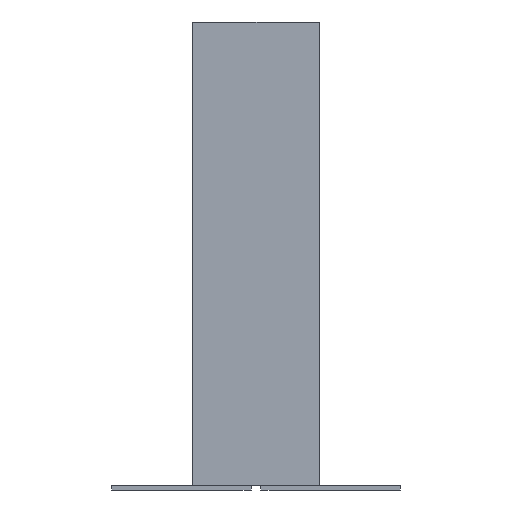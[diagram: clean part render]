
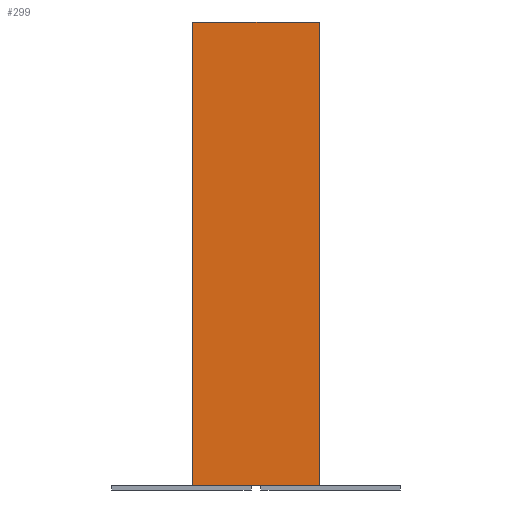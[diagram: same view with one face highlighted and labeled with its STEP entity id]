
A CAD part, left-side view. The second image highlights one B-rep face of the part: STEP entity #299.
In plain terms, the highlighted planar face has unit normal (-1, 0, 0).
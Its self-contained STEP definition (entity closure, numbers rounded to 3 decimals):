
#36 = EDGE_CURVE('',#37,#39,#41,.T.);
#37 = VERTEX_POINT('',#38);
#38 = CARTESIAN_POINT('',(-17.78,1.27,0.));
#39 = VERTEX_POINT('',#40);
#40 = CARTESIAN_POINT('',(-17.78,1.27,9.3));
#41 = SURFACE_CURVE('',#42,(#46,#58),.PCURVE_S1.);
#42 = LINE('',#43,#44);
#43 = CARTESIAN_POINT('',(-17.78,1.27,0.));
#44 = VECTOR('',#45,1.);
#45 = DIRECTION('',(0.,0.,1.));
#46 = PCURVE('',#47,#52);
#47 = PLANE('',#48);
#48 = AXIS2_PLACEMENT_3D('',#49,#50,#51);
#49 = CARTESIAN_POINT('',(-17.78,1.27,0.));
#50 = DIRECTION('',(0.,1.,0.));
#51 = DIRECTION('',(1.,0.,0.));
#52 = DEFINITIONAL_REPRESENTATION('',(#53),#57);
#53 = LINE('',#54,#55);
#54 = CARTESIAN_POINT('',(0.,0.));
#55 = VECTOR('',#56,1.);
#56 = DIRECTION('',(0.,-1.));
#57 = ( GEOMETRIC_REPRESENTATION_CONTEXT(2) 
PARAMETRIC_REPRESENTATION_CONTEXT() REPRESENTATION_CONTEXT('2D SPACE',''
  ) );
#58 = PCURVE('',#59,#64);
#59 = PLANE('',#60);
#60 = AXIS2_PLACEMENT_3D('',#61,#62,#63);
#61 = CARTESIAN_POINT('',(-17.78,-1.27,0.));
#62 = DIRECTION('',(-1.,0.,0.));
#63 = DIRECTION('',(0.,1.,0.));
#64 = DEFINITIONAL_REPRESENTATION('',(#65),#69);
#65 = LINE('',#66,#67);
#66 = CARTESIAN_POINT('',(2.54,0.));
#67 = VECTOR('',#68,1.);
#68 = DIRECTION('',(0.,-1.));
#69 = ( GEOMETRIC_REPRESENTATION_CONTEXT(2) 
PARAMETRIC_REPRESENTATION_CONTEXT() REPRESENTATION_CONTEXT('2D SPACE',''
  ) );
#87 = PLANE('',#88);
#88 = AXIS2_PLACEMENT_3D('',#89,#90,#91);
#89 = CARTESIAN_POINT('',(0.,0.,9.3));
#90 = DIRECTION('',(-0.,-0.,-1.));
#91 = DIRECTION('',(-1.,0.,0.));
#141 = PLANE('',#142);
#142 = AXIS2_PLACEMENT_3D('',#143,#144,#145);
#143 = CARTESIAN_POINT('',(0.,0.,0.));
#144 = DIRECTION('',(-0.,-0.,-1.));
#145 = DIRECTION('',(-1.,0.,0.));
#196 = PLANE('',#197);
#197 = AXIS2_PLACEMENT_3D('',#198,#199,#200);
#198 = CARTESIAN_POINT('',(17.78,-1.27,0.));
#199 = DIRECTION('',(0.,-1.,0.));
#200 = DIRECTION('',(-1.,0.,0.));
#234 = VERTEX_POINT('',#235);
#235 = CARTESIAN_POINT('',(-17.78,-1.27,9.3));
#256 = EDGE_CURVE('',#257,#234,#259,.T.);
#257 = VERTEX_POINT('',#258);
#258 = CARTESIAN_POINT('',(-17.78,-1.27,0.));
#259 = SURFACE_CURVE('',#260,(#264,#271),.PCURVE_S1.);
#260 = LINE('',#261,#262);
#261 = CARTESIAN_POINT('',(-17.78,-1.27,0.));
#262 = VECTOR('',#263,1.);
#263 = DIRECTION('',(0.,0.,1.));
#264 = PCURVE('',#196,#265);
#265 = DEFINITIONAL_REPRESENTATION('',(#266),#270);
#266 = LINE('',#267,#268);
#267 = CARTESIAN_POINT('',(35.56,0.));
#268 = VECTOR('',#269,1.);
#269 = DIRECTION('',(0.,-1.));
#270 = ( GEOMETRIC_REPRESENTATION_CONTEXT(2) 
PARAMETRIC_REPRESENTATION_CONTEXT() REPRESENTATION_CONTEXT('2D SPACE',''
  ) );
#271 = PCURVE('',#59,#272);
#272 = DEFINITIONAL_REPRESENTATION('',(#273),#277);
#273 = LINE('',#274,#275);
#274 = CARTESIAN_POINT('',(0.,0.));
#275 = VECTOR('',#276,1.);
#276 = DIRECTION('',(0.,-1.));
#277 = ( GEOMETRIC_REPRESENTATION_CONTEXT(2) 
PARAMETRIC_REPRESENTATION_CONTEXT() REPRESENTATION_CONTEXT('2D SPACE',''
  ) );
#299 = ADVANCED_FACE('',(#300),#59,.T.);
#300 = FACE_BOUND('',#301,.T.);
#301 = EDGE_LOOP('',(#302,#303,#324,#325));
#302 = ORIENTED_EDGE('',*,*,#256,.T.);
#303 = ORIENTED_EDGE('',*,*,#304,.T.);
#304 = EDGE_CURVE('',#234,#39,#305,.T.);
#305 = SURFACE_CURVE('',#306,(#310,#317),.PCURVE_S1.);
#306 = LINE('',#307,#308);
#307 = CARTESIAN_POINT('',(-17.78,-1.27,9.3));
#308 = VECTOR('',#309,1.);
#309 = DIRECTION('',(0.,1.,0.));
#310 = PCURVE('',#59,#311);
#311 = DEFINITIONAL_REPRESENTATION('',(#312),#316);
#312 = LINE('',#313,#314);
#313 = CARTESIAN_POINT('',(0.,-9.3));
#314 = VECTOR('',#315,1.);
#315 = DIRECTION('',(1.,0.));
#316 = ( GEOMETRIC_REPRESENTATION_CONTEXT(2) 
PARAMETRIC_REPRESENTATION_CONTEXT() REPRESENTATION_CONTEXT('2D SPACE',''
  ) );
#317 = PCURVE('',#87,#318);
#318 = DEFINITIONAL_REPRESENTATION('',(#319),#323);
#319 = LINE('',#320,#321);
#320 = CARTESIAN_POINT('',(17.78,-1.27));
#321 = VECTOR('',#322,1.);
#322 = DIRECTION('',(0.,1.));
#323 = ( GEOMETRIC_REPRESENTATION_CONTEXT(2) 
PARAMETRIC_REPRESENTATION_CONTEXT() REPRESENTATION_CONTEXT('2D SPACE',''
  ) );
#324 = ORIENTED_EDGE('',*,*,#36,.F.);
#325 = ORIENTED_EDGE('',*,*,#326,.F.);
#326 = EDGE_CURVE('',#257,#37,#327,.T.);
#327 = SURFACE_CURVE('',#328,(#332,#339),.PCURVE_S1.);
#328 = LINE('',#329,#330);
#329 = CARTESIAN_POINT('',(-17.78,-1.27,0.));
#330 = VECTOR('',#331,1.);
#331 = DIRECTION('',(0.,1.,0.));
#332 = PCURVE('',#59,#333);
#333 = DEFINITIONAL_REPRESENTATION('',(#334),#338);
#334 = LINE('',#335,#336);
#335 = CARTESIAN_POINT('',(0.,0.));
#336 = VECTOR('',#337,1.);
#337 = DIRECTION('',(1.,0.));
#338 = ( GEOMETRIC_REPRESENTATION_CONTEXT(2) 
PARAMETRIC_REPRESENTATION_CONTEXT() REPRESENTATION_CONTEXT('2D SPACE',''
  ) );
#339 = PCURVE('',#141,#340);
#340 = DEFINITIONAL_REPRESENTATION('',(#341),#345);
#341 = LINE('',#342,#343);
#342 = CARTESIAN_POINT('',(17.78,-1.27));
#343 = VECTOR('',#344,1.);
#344 = DIRECTION('',(0.,1.));
#345 = ( GEOMETRIC_REPRESENTATION_CONTEXT(2) 
PARAMETRIC_REPRESENTATION_CONTEXT() REPRESENTATION_CONTEXT('2D SPACE',''
  ) );
